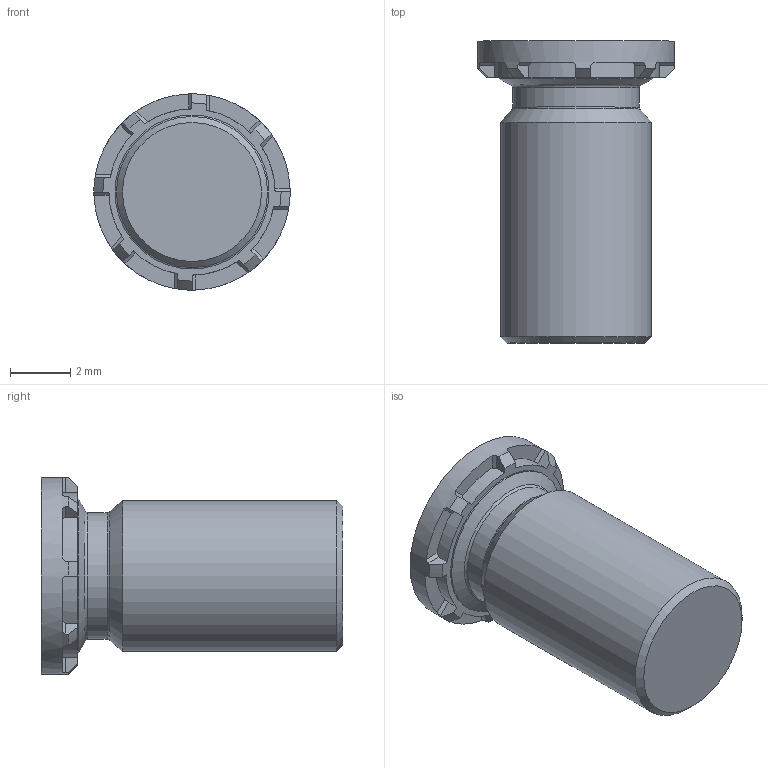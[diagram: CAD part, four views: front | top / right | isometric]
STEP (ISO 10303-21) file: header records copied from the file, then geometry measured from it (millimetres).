
FILE_DESCRIPTION(/* description */ (''),/* implementation_level */ '2;1');
FILE_NAME(/* name */ 'C:\Users\keval.kumar\Desktop\Fastit\Clinch Screw- FH Range\M5\Clinch Screw-FH Range_M5x10.stp',/* time_stamp */ '2024-03-12T12:02:52+06:00',/* author */ ('keval.kumar'),/* organization */ (''),/* preprocessor_version */ 'ST-DEVELOPER v18.1',/* originating_system */ 'Autodesk Inventor 2022',/* authorisation */ '');
FILE_SCHEMA (('AUTOMOTIVE_DESIGN { 1 0 10303 214 3 1 1 }'));
Length unit declared in the file: millimetre
Products named in the file (1): Clinch Screw-FH Range_M5x10
Bounding box: 6.5 x 10 x 6.5 mm (x, y, z)
Volume: 202.2 mm3; surface area: 230.2 mm2
Topology: 1 solids, 1 shells, 68 faces, 193 edges, 128 vertices
Faces by surface type: plane 43, cylinder 12, cone 11, torus 2
Full cylindrical faces by diameter (mm): 4.2 x1, 5 x1, 5.1 x1, 6.5 x1
Entity records: 2286 total; most frequent: DIRECTION 413, CARTESIAN_POINT 406, ORIENTED_EDGE 386, EDGE_CURVE 193, AXIS2_PLACEMENT_3D 159, VERTEX_POINT 128, LINE 95, VECTOR 95
